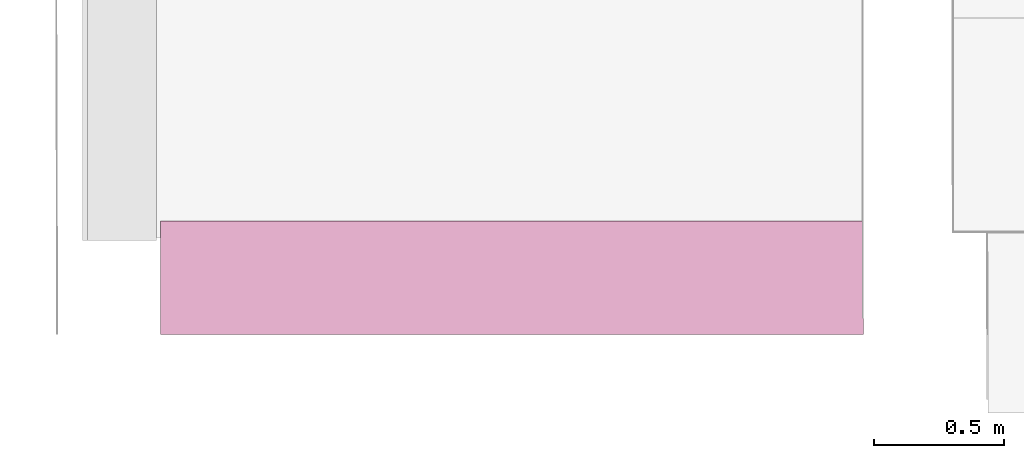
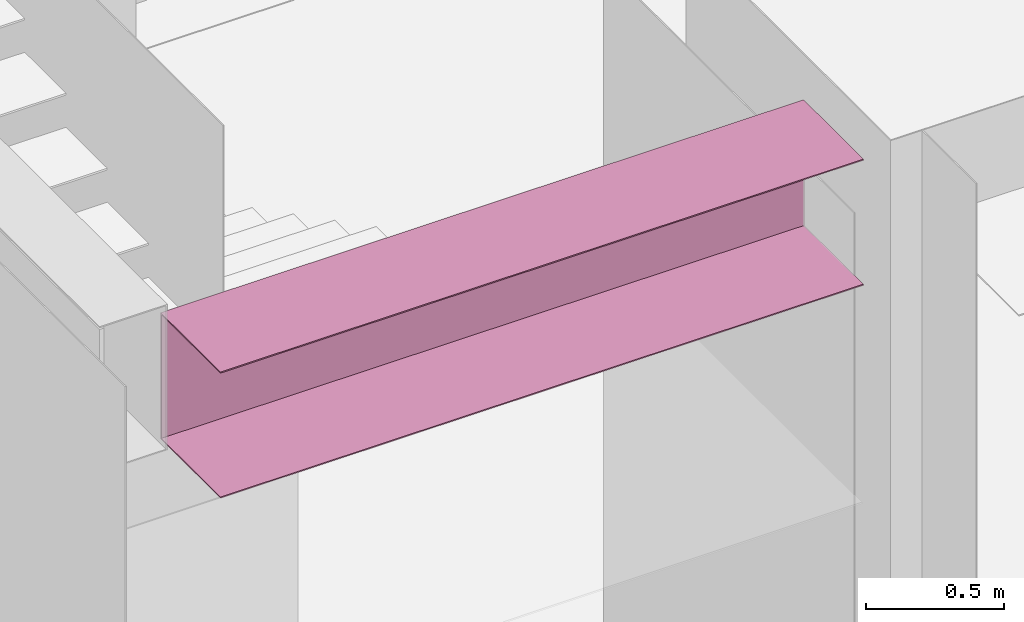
# One storey, part 32 of 33: 1 furnishing.
"""IFC2X3 building model written with IfcOpenShell, lengths in millimetres."""

from ifc_helpers import new_model, entity, si_unit, converted_unit, derived_unit, money_unit, direction, frame, origin_with_axes, place, context, subcontext, project, spatial, faceted_brep, material, type_object, element, save


model = new_model("IFC2X3")

# Units and contexts
model_context = context("Model", 3, precision=0.01, world=origin_with_axes(), true_north=direction((0.0, 1.0)))
body_context = subcontext(model_context, "Body", "Model", "MODEL_VIEW")
ifc_project = project(units=[si_unit("LENGTHUNIT", "METRE", prefix="MILLI"), si_unit("AREAUNIT", "SQUARE_METRE"), si_unit("VOLUMEUNIT", "CUBIC_METRE"), converted_unit("PLANEANGLEUNIT", "DEGREE", entity("IfcPlaneAngleMeasure", 0.0174532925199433), si_unit("PLANEANGLEUNIT", "RADIAN"), dimensions=[0, 0, 0, 0, 0, 0, 0]), money_unit("EUR"), converted_unit("TIMEUNIT", "Year", entity("IfcTimeMeasure", 31556926.0), si_unit("TIMEUNIT", "SECOND"), dimensions=[0, 0, 1, 0, 0, 0, 0]), si_unit("MASSUNIT", "GRAM", prefix="KILO"), si_unit("THERMODYNAMICTEMPERATUREUNIT", "DEGREE_CELSIUS"), si_unit("LUMINOUSINTENSITYUNIT", "LUMEN"), si_unit("ENERGYUNIT", "JOULE", prefix="MEGA"), derived_unit("THERMALCONDUCTANCEUNIT", [(si_unit("POWERUNIT", "WATT"), 1), (si_unit("LENGTHUNIT", "METRE"), -1), (si_unit("THERMODYNAMICTEMPERATUREUNIT", "KELVIN"), -1)]), derived_unit("SPECIFICHEATCAPACITYUNIT", [(si_unit("ENERGYUNIT", "JOULE"), 1), (si_unit("MASSUNIT", "GRAM", prefix="KILO"), -1), (si_unit("THERMODYNAMICTEMPERATUREUNIT", "KELVIN"), -1)]), derived_unit("MASSDENSITYUNIT", [(si_unit("MASSUNIT", "GRAM", prefix="KILO"), 1), (si_unit("VOLUMEUNIT", "CUBIC_METRE"), -1)])], contexts=[model_context])

# Site, building, storey
site_placement = place(None, origin_with_axes())
site = spatial("IfcSite", under=ifc_project, at=site_placement, Name="Paldiski mnt 245/1, Tallinn, Harjumaa", CompositionType="COMPLEX")
building_placement = place(site_placement, origin_with_axes())
building = spatial("IfcBuilding", under=site, at=building_placement, Name="RKAS Hoone üldnimetus (kasutust iseloomustav) -> IFC Project Manager -> SOLIBRI", CompositionType="ELEMENT")
storey_placement = place(building_placement, origin_with_axes())
storey = spatial("IfcBuildingStorey", under=building, at=storey_placement, Name="Esimene korrus", CompositionType="ELEMENT", Elevation=0.0)

# Furnishing
ifc_material = material(Name="SA- Värv SM10(tumehall)")
furniture_type = type_object("IfcFurnitureType", Name="SA- Värv SM10(tumehall)", AssemblyPlace="NOTDEFINED")
furnishing_placement = place(storey_placement, frame((-47082.85227200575, -12510.08408706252, 2670.000000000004), z_axis=(0.0, 0.0, 1.0), x_axis=(1.0, 0.0, 0.0)))
element("IfcFurnishingElement", 1, at=furnishing_placement, inside=storey, type_object=furniture_type, material=ifc_material, Name="SM10", context=body_context, shape_type="Brep", body=[
    faceted_brep([(-207.1477279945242, 430.0000000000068, 549.9999999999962), (-207.1477279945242, 430.0000000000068, 0.0), (2492.852272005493, 430.0000000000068, 0.0), (2492.852272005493, 430.0000000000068, 549.9999999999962), (-207.1477279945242, 0.0, 549.9999999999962), (-207.1477279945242, -1.337605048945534e-05, 554.9999999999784), (-207.1477279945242, 430.0000000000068, 554.9999999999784), (-207.1477279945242, 435.0000000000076, 554.9999999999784), (-207.1477279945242, 435.0000000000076, 0.0), (-207.1477279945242, 435.0000000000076, -4.999999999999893), (-207.1477279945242, -9.72635838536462e-06, -4.999153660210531), (-207.1477279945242, 0.0, 0.0), (2492.852272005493, 0.0, 0.0), (2492.852272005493, -9.72635838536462e-06, -4.999153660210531), (2492.852272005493, 435.0000000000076, -4.999999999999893), (2492.852272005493, 435.0000000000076, 0.0), (2492.852272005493, 435.0000000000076, 554.9999999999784), (2492.852272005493, 430.0000000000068, 554.9999999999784), (2492.852272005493, -1.337605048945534e-05, 554.9999999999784), (2492.852272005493, 0.0, 549.9999999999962)], [[[0, 1, 2, 3]], [[4, 5, 6, 7, 8, 9, 10, 11, 1, 0]], [[1, 11, 12, 2]], [[12, 13, 14, 15, 16, 17, 18, 19, 3, 2]], [[4, 0, 3, 19]], [[5, 4, 19, 18]], [[6, 5, 18, 17]], [[7, 6, 17, 16]], [[8, 7, 16, 15]], [[9, 8, 15, 14]], [[10, 9, 14, 13]], [[10, 13, 12, 11]]]),
])

save(model, "model.ifc")
